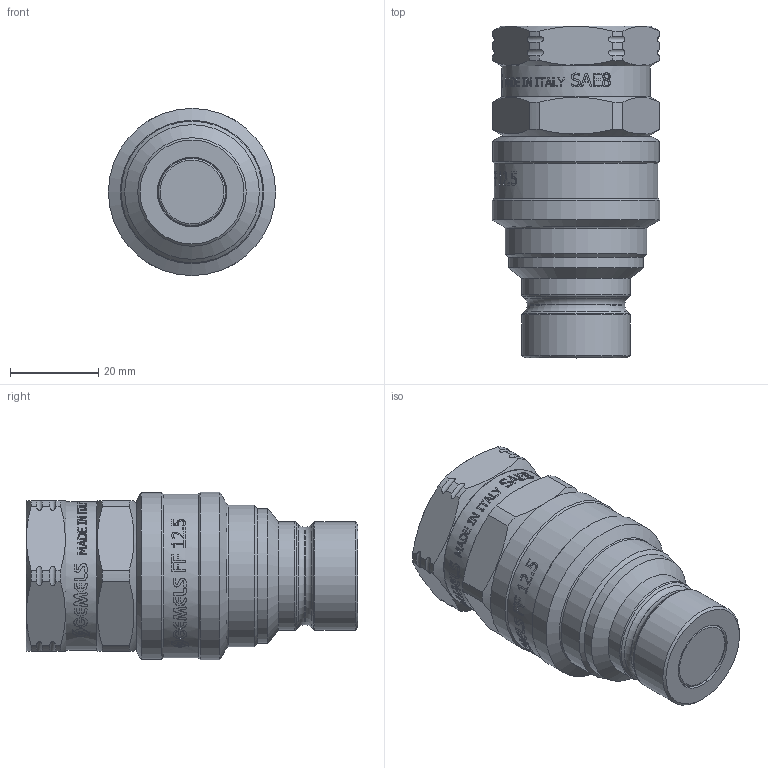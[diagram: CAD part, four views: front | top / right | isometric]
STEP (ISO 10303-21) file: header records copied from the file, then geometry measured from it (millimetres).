
FILE_DESCRIPTION(/* description */ (''),/* implementation_level */ '2;1');
FILE_NAME(/* name */ 'NC05S030003.stp',/* time_stamp */ '2026-07-27T09:23:47+02:00',/* author */ ('francesca.patelli'),/* organization */ (''),/* preprocessor_version */ 'ST-DEVELOPER v20',/* originating_system */ 'Autodesk Inventor 2024',/* authorisation */ '');
FILE_SCHEMA (('AUTOMOTIVE_DESIGN { 1 0 10303 214 3 1 1 }'));
Length unit declared in the file: millimetre
Products named in the file (1): Parte2
Bounding box: 37.8 x 75 x 37.8 mm (x, y, z)
Volume: 57756.3 mm3; surface area: 11408.9 mm2
Topology: 1 solids, 1 shells, 1133 faces, 3229 edges, 2143 vertices
Faces by surface type: bspline 726, plane 281, cylinder 90, torus 19, cone 17
Full cylindrical faces by diameter (mm): 15.65 x1, 17.5 x1, 22 x1, 24.5 x2, 30.45 x1, 32 x2, 32.3 x1, 33.5 x1, 37 x1, 37.7 x1, 37.8 x1
Entity records: 49402 total; most frequent: CARTESIAN_POINT 23526, ORIENTED_EDGE 6458, EDGE_CURVE 3229, DIRECTION 2907, VERTEX_POINT 2143, B_SPLINE_CURVE_WITH_KNOTS 1530, LINE 1259, VECTOR 1259
